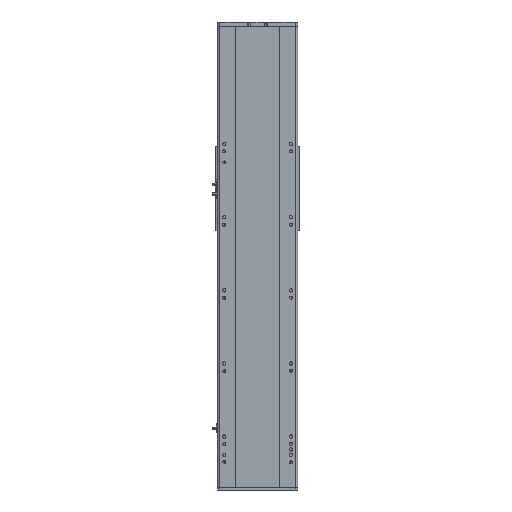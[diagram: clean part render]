
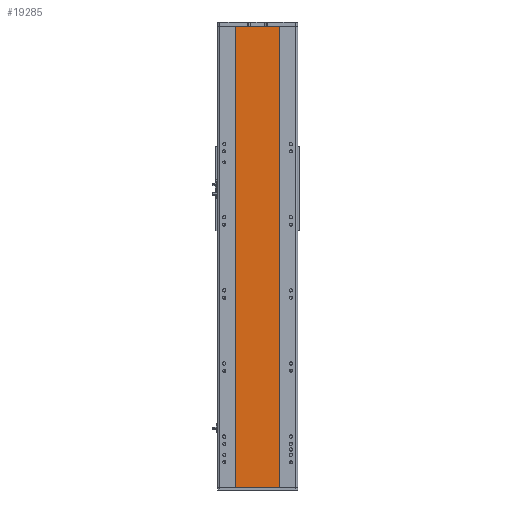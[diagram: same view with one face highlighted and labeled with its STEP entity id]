
A CAD part, front view. The second image highlights one B-rep face of the part: STEP entity #19285.
In plain terms, the highlighted planar face has unit normal (0, -1, 0).
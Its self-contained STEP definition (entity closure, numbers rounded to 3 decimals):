
#269 = EDGE_CURVE ( 'NONE', #6742, #14603, #20228, .T. ) ;
#788 = EDGE_LOOP ( 'NONE', ( #31629, #6668, #37625, #7175 ) ) ;
#1607 = CARTESIAN_POINT ( 'NONE',  ( 59., 1., 630.5 ) ) ;
#3854 = VECTOR ( 'NONE', #10597, 1000. ) ;
#5687 = CARTESIAN_POINT ( 'NONE',  ( 59., 1., -630.5 ) ) ;
#6448 = CARTESIAN_POINT ( 'NONE',  ( 59., 1., 630.5 ) ) ;
#6668 = ORIENTED_EDGE ( 'NONE', *, *, #28778, .F. ) ;
#6742 = VERTEX_POINT ( 'NONE', #12539 ) ;
#7175 = ORIENTED_EDGE ( 'NONE', *, *, #269, .T. ) ;
#7366 = EDGE_CURVE ( 'NONE', #14603, #28257, #10609, .T. ) ;
#7602 = CARTESIAN_POINT ( 'NONE',  ( -59., 1., -630.5 ) ) ;
#10375 = CARTESIAN_POINT ( 'NONE',  ( -59., 1., 630.5 ) ) ;
#10387 = LINE ( 'NONE', #17819, #12240 ) ;
#10587 = VECTOR ( 'NONE', #35511, 1000. ) ;
#10597 = DIRECTION ( 'NONE',  ( 1., 0., 0. ) ) ;
#10609 = LINE ( 'NONE', #7602, #3854 ) ;
#10616 = PLANE ( 'NONE',  #17742 ) ;
#11441 = DIRECTION ( 'NONE',  ( 0., 0., -1. ) ) ;
#12240 = VECTOR ( 'NONE', #28915, 1000. ) ;
#12539 = CARTESIAN_POINT ( 'NONE',  ( -59., 1., 630.5 ) ) ;
#14603 = VERTEX_POINT ( 'NONE', #37398 ) ;
#15224 = EDGE_CURVE ( 'NONE', #6742, #35014, #10387, .T. ) ;
#15711 = FACE_OUTER_BOUND ( 'NONE', #788, .T. ) ;
#17742 = AXIS2_PLACEMENT_3D ( 'NONE', #10375, #27617, #27871 ) ;
#17819 = CARTESIAN_POINT ( 'NONE',  ( -59., 1., 630.5 ) ) ;
#19285 = ADVANCED_FACE ( 'NONE', ( #15711 ), #10616, .F. ) ;
#20228 = LINE ( 'NONE', #28937, #36664 ) ;
#27617 = DIRECTION ( 'NONE',  ( 0., 1., 0. ) ) ;
#27871 = DIRECTION ( 'NONE',  ( -1., 0., 0. ) ) ;
#28257 = VERTEX_POINT ( 'NONE', #5687 ) ;
#28778 = EDGE_CURVE ( 'NONE', #35014, #28257, #30252, .T. ) ;
#28915 = DIRECTION ( 'NONE',  ( 1., 0., 0. ) ) ;
#28937 = CARTESIAN_POINT ( 'NONE',  ( -59., 1., 630.5 ) ) ;
#30252 = LINE ( 'NONE', #6448, #10587 ) ;
#31629 = ORIENTED_EDGE ( 'NONE', *, *, #7366, .T. ) ;
#35014 = VERTEX_POINT ( 'NONE', #1607 ) ;
#35511 = DIRECTION ( 'NONE',  ( 0., 0., -1. ) ) ;
#36664 = VECTOR ( 'NONE', #11441, 1000. ) ;
#37398 = CARTESIAN_POINT ( 'NONE',  ( -59., 1., -630.5 ) ) ;
#37625 = ORIENTED_EDGE ( 'NONE', *, *, #15224, .F. ) ;
